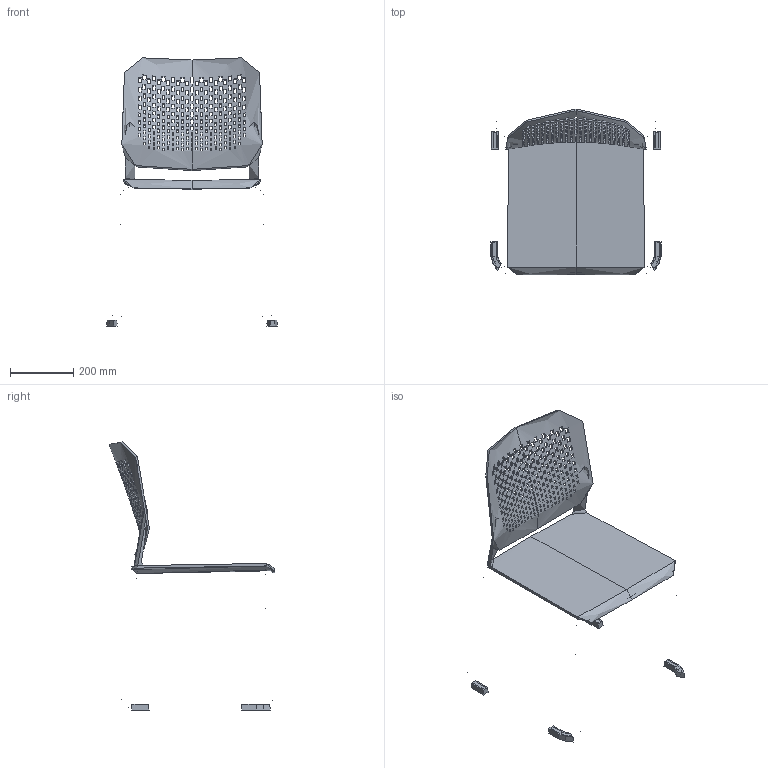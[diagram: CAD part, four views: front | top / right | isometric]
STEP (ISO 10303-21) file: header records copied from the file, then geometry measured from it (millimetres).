
FILE_DESCRIPTION(/* description */ (''),/* implementation_level */ '2;1');
FILE_NAME(/* name */ 'Time 160',/* time_stamp */ '2019-11-22T22:54:43+01:00',/* author */ (''),/* organization */ (''),/* preprocessor_version */ 'ST-DEVELOPER v16.5',/* originating_system */ '',/* authorisation */ '');
FILE_SCHEMA (('AUTOMOTIVE_DESIGN'));
Length unit declared in the file: millimetre
Products named in the file (1): Document
Bounding box: 537.92 x 523.11 x 846.75 mm (x, y, z)
Volume: 69366.3 mm3; surface area: 1092159.9 mm2
Topology: 4 solids, 9 shells, 1083 faces, 3206 edges, 2107 vertices
Faces by surface type: bspline 597, plane 486
Entity records: 57808 total; most frequent: CARTESIAN_POINT 37271, ORIENTED_EDGE 6392, EDGE_CURVE 3203, B_SPLINE_CURVE_WITH_KNOTS 3074, VERTEX_POINT 2105, EDGE_LOOP 1531, ADVANCED_FACE 1083, FACE_OUTER_BOUND 1083
